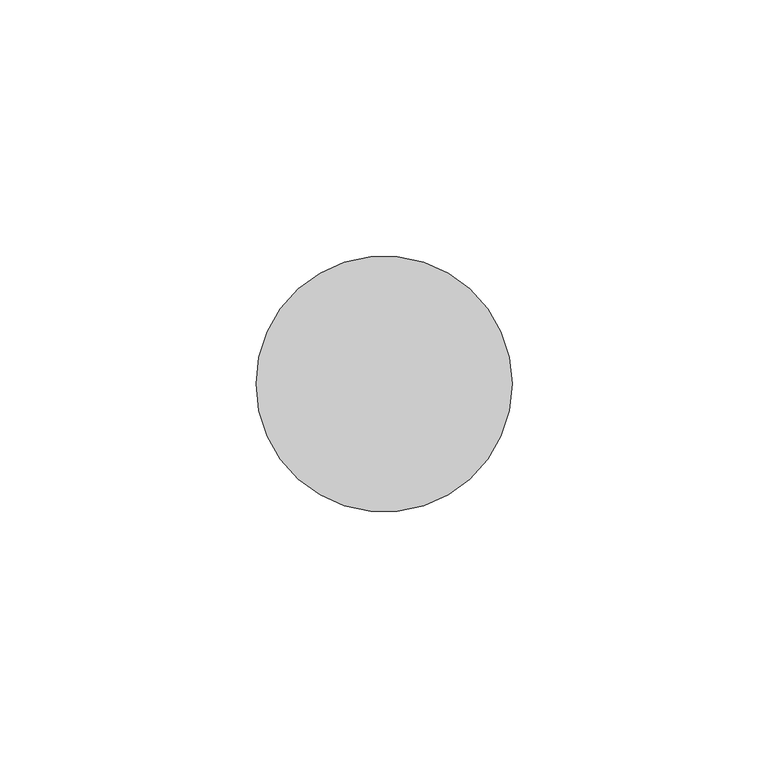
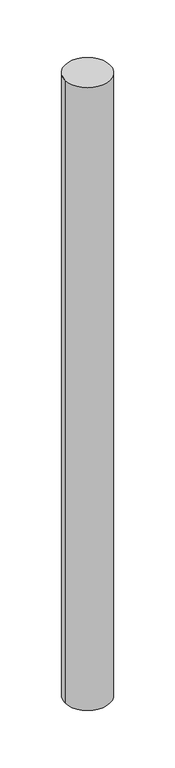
"""IFC4 building model written with IfcOpenShell, lengths in millimetres: member geometry, 圓形豎框 : 25mm 半徑."""

from ifc_helpers import new_model, si_unit, point, frame, origin, origin_2d, place, context, project, spatial, circle_curve, trimmed, segment, composite_curve, outline, extrude, source, transform, mapped, element, save


def member_92a3c778(model_context):
    return source(origin(), model_context, "Body", "SweptSolid", [
        extrude(outline(composite_curve([segment(trimmed(circle_curve(origin_2d(), 25.0), [point((25.0, 0.0))], [point((-25.0, 0.0))], False, "CARTESIAN"), True, "CONTINUOUS"), segment(trimmed(circle_curve(origin_2d(), 25.0), [point((-25.0, 0.0))], [point((25.0, 0.0))], False, "CARTESIAN"), True, "CONTINUOUS")], self_intersect=False)), frame((0.0, 0.0, -728.9430891), z_axis=(0.0, 0.0, 1.0), x_axis=(1.0, 0.0, 0.0)), (0.0, 0.0, 1.0), 728.9430891),
    ])


if __name__ == "__main__":
    model = new_model("IFC4")
    model_context = context("Model", 3, world=origin())
    ifc_project = project(units=[si_unit("LENGTHUNIT", "METRE", prefix="MILLI")], contexts=[model_context])
    site = spatial("IfcSite", under=ifc_project)
    building = spatial("IfcBuilding", under=site)
    placement = place(None, origin())
    member_shape = member_92a3c778(model_context)
    element("IfcMember", 1, ObjectType="圓形豎框 : 25mm 半徑", at=placement, inside=building, context=model_context, shape_type="MappedRepresentation", body=[
        mapped(member_shape, transform((0.0, 0.0, 0.0), x_axis=(1.0, 0.0, 0.0), y_axis=(0.0, 1.0, 0.0), z_axis=(0.0, 0.0, 1.0))),
    ])
    save(model, "model.ifc")
